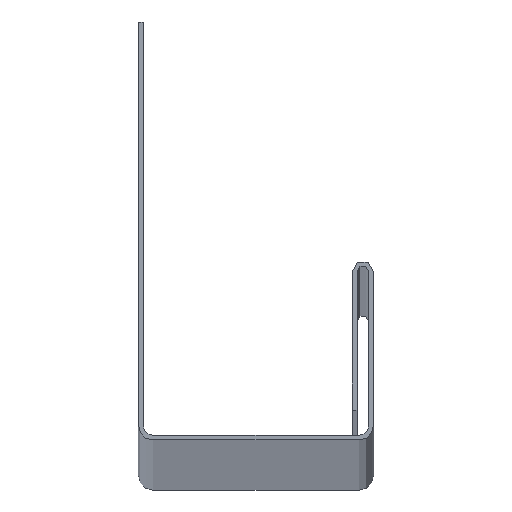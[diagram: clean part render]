
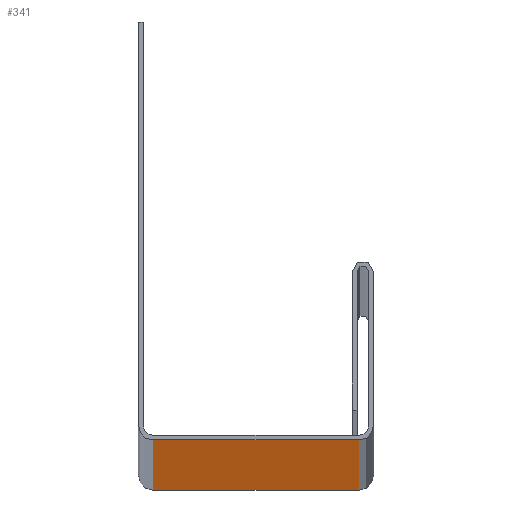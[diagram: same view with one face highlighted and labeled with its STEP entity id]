
A CAD part, top view. The second image highlights one B-rep face of the part: STEP entity #341.
In plain terms, the highlighted planar face has unit normal (0, -1, 0).
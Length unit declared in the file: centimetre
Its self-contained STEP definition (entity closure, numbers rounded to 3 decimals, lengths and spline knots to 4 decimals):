
#45=FACE_OUTER_BOUND('',#63,.T.);
#63=EDGE_LOOP('',(#269,#270,#271,#272));
#97=LINE('',#569,#133);
#98=LINE('',#573,#134);
#99=LINE('',#575,#135);
#100=LINE('',#576,#136);
#133=VECTOR('',#465,1000.);
#134=VECTOR('',#470,1000.);
#135=VECTOR('',#471,1000.);
#136=VECTOR('',#472,1000.);
#165=VERTEX_POINT('',#566);
#166=VERTEX_POINT('',#568);
#167=VERTEX_POINT('',#572);
#168=VERTEX_POINT('',#574);
#208=EDGE_CURVE('',#166,#165,#97,.T.);
#210=EDGE_CURVE('',#165,#167,#98,.T.);
#211=EDGE_CURVE('',#168,#167,#99,.T.);
#212=EDGE_CURVE('',#166,#168,#100,.T.);
#269=ORIENTED_EDGE('',*,*,#210,.T.);
#270=ORIENTED_EDGE('',*,*,#211,.F.);
#271=ORIENTED_EDGE('',*,*,#212,.F.);
#272=ORIENTED_EDGE('',*,*,#208,.T.);
#325=PLANE('',#387);
#341=ADVANCED_FACE('',(#45),#325,.F.);
#387=AXIS2_PLACEMENT_3D('',#571,#468,#469);
#465=DIRECTION('',(0.,0.,-1.));
#468=DIRECTION('center_axis',(0.,1.,0.));
#469=DIRECTION('ref_axis',(0.,0.,1.));
#470=DIRECTION('',(1.,0.,0.));
#471=DIRECTION('',(0.,0.,-1.));
#472=DIRECTION('',(1.,0.,0.));
#566=CARTESIAN_POINT('',(1.,-0.508,0.));
#568=CARTESIAN_POINT('',(1.,-0.508,3048.));
#569=CARTESIAN_POINT('',(1.,-0.508,3048.));
#571=CARTESIAN_POINT('Origin',(1.,-0.508,3048.));
#572=CARTESIAN_POINT('',(22.983,-0.508,0.));
#573=CARTESIAN_POINT('',(1.,-0.508,0.));
#574=CARTESIAN_POINT('',(22.983,-0.508,3048.));
#575=CARTESIAN_POINT('',(22.983,-0.508,3048.));
#576=CARTESIAN_POINT('',(1.,-0.508,3048.));
